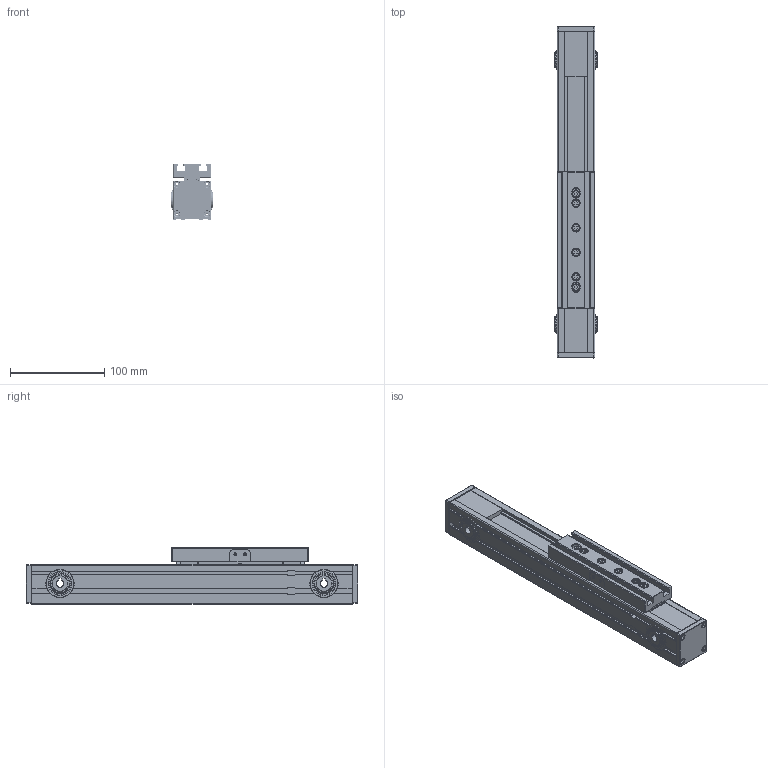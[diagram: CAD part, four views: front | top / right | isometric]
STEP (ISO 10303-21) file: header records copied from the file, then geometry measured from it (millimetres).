
FILE_DESCRIPTION (( 'STEP AP214' ), '1' );
FILE_NAME ('TKR40-100A1-F0-R3-高速内滚轮直线模组.step', '2025-10-10T03:21:36', ( '' ), ( '' ), 'SwSTEP 2.0', 'SolidWorks 2024', '' );
FILE_SCHEMA (( 'AUTOMOTIVE_DESIGN' ));
Length unit declared in the file: millimetre
Products named in the file (3): TKR40-R3-02; TKR40-100-R3-01; TKR40-100A1-F0-R3-高速内滚轮直线模组
Assembly tree (2 placements, depth 2):
  TKR40-100A1-F0-R3-高速内滚轮直线模组
    TKR40-100-R3-01
    TKR40-R3-02
Bounding box: 45 x 352 x 60 mm (x, y, z)
Volume: 308913 mm3; surface area: 235068.2 mm2
Topology: 16 solids, 56 shells, 2702 faces, 7175 edges, 4621 vertices
Faces by surface type: cylinder 1388, plane 792, torus 216, cone 186, bspline 96, sphere 24
Entity records: 146594 total; most frequent: CARTESIAN_POINT 52029, ORIENTED_EDGE 14178, DIRECTION 13212, EDGE_CURVE 7139, AXIS2_PLACEMENT_3D 5104, VERTEX_POINT 4625, VECTOR 3004, LINE 3004
